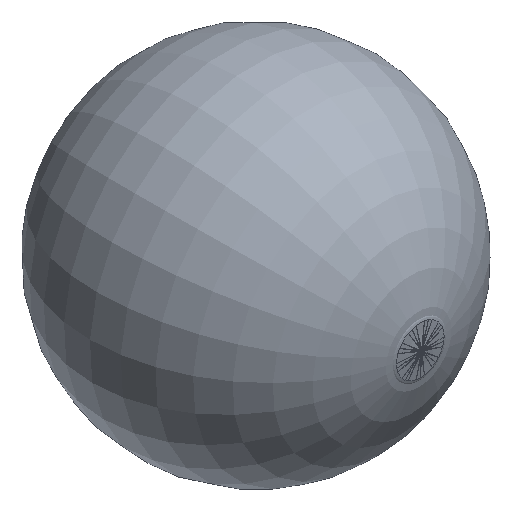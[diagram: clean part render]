
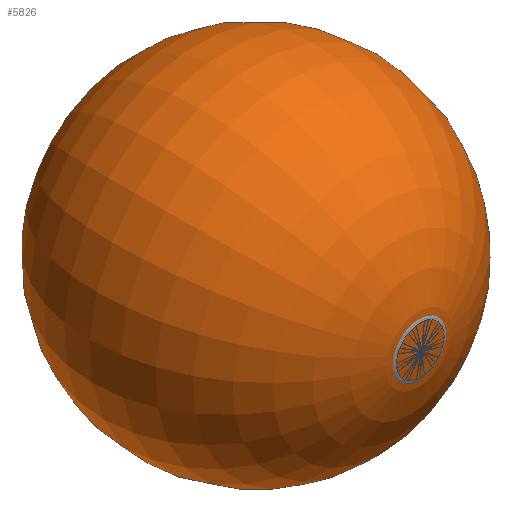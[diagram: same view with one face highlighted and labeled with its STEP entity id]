
A CAD part, isometric view. The second image highlights one B-rep face of the part: STEP entity #5826.
In plain terms, the highlighted toroidal (fillet/blend) face has major radius 0 mm and minor radius 108.5 mm.
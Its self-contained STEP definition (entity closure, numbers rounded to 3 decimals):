
#19=VERTEX_LOOP('',#4411);
#65=DEGENERATE_TOROIDAL_SURFACE('',#6466,0.,108.5,
 .T.);
#2667=ORIENTED_EDGE('',*,*,#3754,.T.);
#3754=EDGE_CURVE('',#4410,#4410,#4777,.T.);
#4410=VERTEX_POINT('',#10451);
#4411=VERTEX_POINT('',#10453);
#4777=CIRCLE('',#6465,15.575);
#5091=EDGE_LOOP('',(#2667));
#5460=FACE_BOUND('',#5091,.T.);
#5461=FACE_BOUND('',#19,.T.);
#5826=ADVANCED_FACE('',(#5460,#5461),#65,.T.);
#6465=AXIS2_PLACEMENT_3D('',#10450,#7920,#7921);
#6466=AXIS2_PLACEMENT_3D('',#10452,#7922,#7923);
#7920=DIRECTION('',(0.,-1.,0.));
#7921=DIRECTION('',(0.,0.,-1.));
#7922=DIRECTION('',(0.,-1.,0.));
#7923=DIRECTION('',(0.,0.,-1.));
#10450=CARTESIAN_POINT('',(31.5,-107.376,0.));
#10451=CARTESIAN_POINT('',(31.5,-107.376,-15.575));
#10452=CARTESIAN_POINT('',(31.5,0.,0.));
#10453=CARTESIAN_POINT('',(31.5,-108.5,0.));
